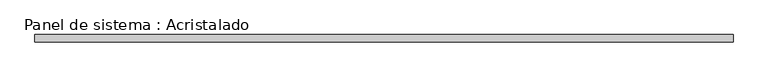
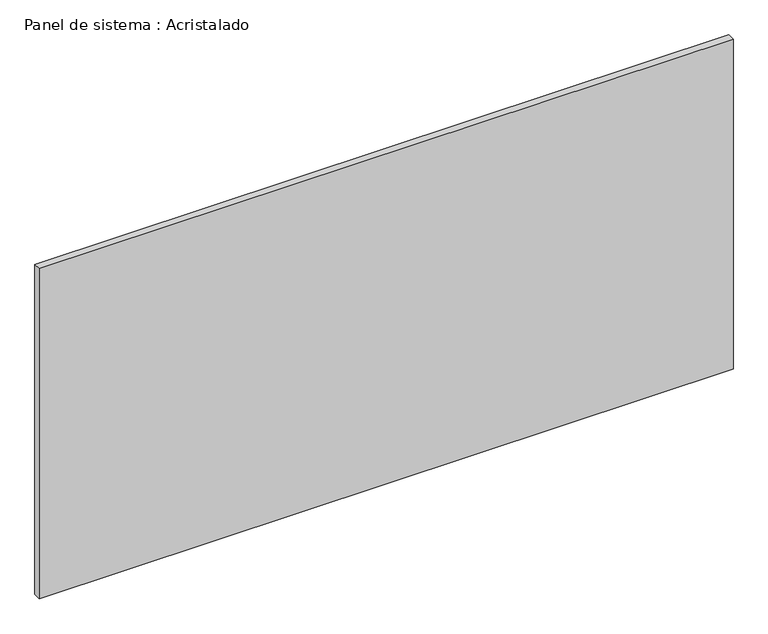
"""IFC4 building model written with IfcOpenShell, lengths in millimetres: plate geometry, Panel de sistema : Acristalado."""

from ifc_helpers import new_model, si_unit, origin, origin_with_axes, place, context, project, spatial, polyline, outline, extrude, source, transform, mapped, element, save


def panel_de_sistema_acristalado_f2b40764(model_context):
    return source(origin(), model_context, "Body", "SweptSolid", [
        extrude(outline(polyline([(944.2647694, -10.0), (-944.2647694, -10.0), (-944.2647694, 10.0), (944.2647694, 10.0), (944.2647694, -10.0)])), origin_with_axes(), (0.0, 0.0, 1.0), 950.0),
    ])


if __name__ == "__main__":
    model = new_model("IFC4")
    model_context = context("Model", 3, world=origin())
    ifc_project = project(units=[si_unit("LENGTHUNIT", "METRE", prefix="MILLI")], contexts=[model_context])
    site = spatial("IfcSite", under=ifc_project)
    building = spatial("IfcBuilding", under=site)
    placement = place(None, origin())
    panel_de_sistema_acristalado_shape = panel_de_sistema_acristalado_f2b40764(model_context)
    element("IfcPlate", 1, ObjectType="Panel de sistema : Acristalado", at=placement, inside=building, context=model_context, shape_type="MappedRepresentation", body=[
        mapped(panel_de_sistema_acristalado_shape, transform((0.0, 0.0, 0.0), x_axis=(1.0, 0.0, 0.0), y_axis=(0.0, 1.0, 0.0), z_axis=(0.0, 0.0, 1.0))),
    ])
    save(model, "model.ifc")
